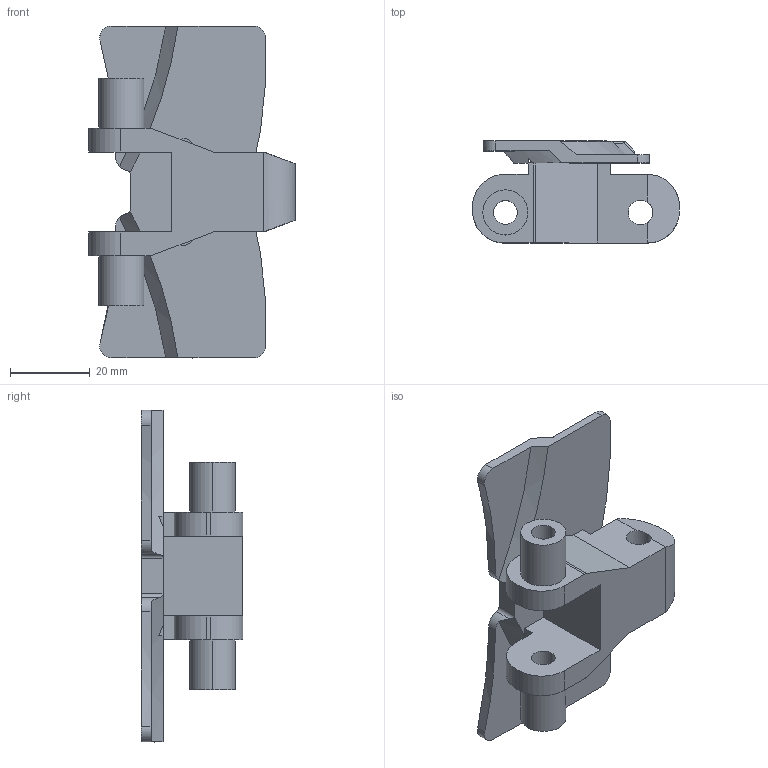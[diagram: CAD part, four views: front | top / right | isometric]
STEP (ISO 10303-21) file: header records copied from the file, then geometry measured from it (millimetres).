
FILE_DESCRIPTION (( 'STEP AP214' ), '1' );
FILE_NAME ('EMPC-5.STEP', '2011-07-06T06:58:25', ( '.' ), ( '' ), 'SwSTEP 2.0', 'SolidWorks 2010', '' );
FILE_SCHEMA (( 'AUTOMOTIVE_DESIGN' ));
Length unit declared in the file: millimetre
Products named in the file (1): EMPC-5
Bounding box: 51.7 x 25.5 x 83 mm (x, y, z)
Surface area: 13455.9 mm2 (no closed solid volume)
Topology: 0 solids, 4 shells, 85 faces, 242 edges, 160 vertices
Faces by surface type: plane 40, cylinder 35, bspline 6, cone 4
Entity records: 4219 total; most frequent: CARTESIAN_POINT 1288, ORIENTED_EDGE 456, DIRECTION 391, EDGE_CURVE 242, VERTEX_POINT 160, AXIS2_PLACEMENT_3D 135, VECTOR 121, LINE 121
